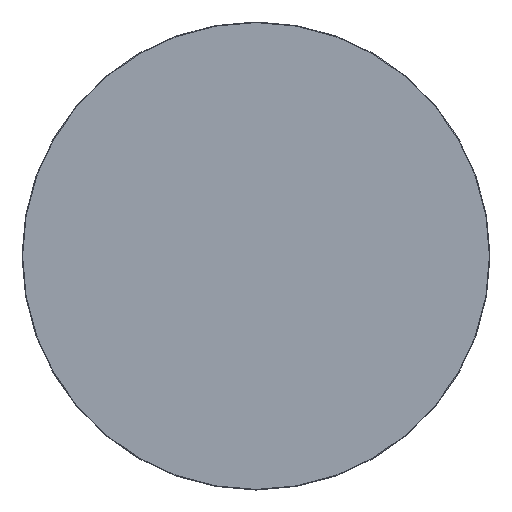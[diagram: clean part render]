
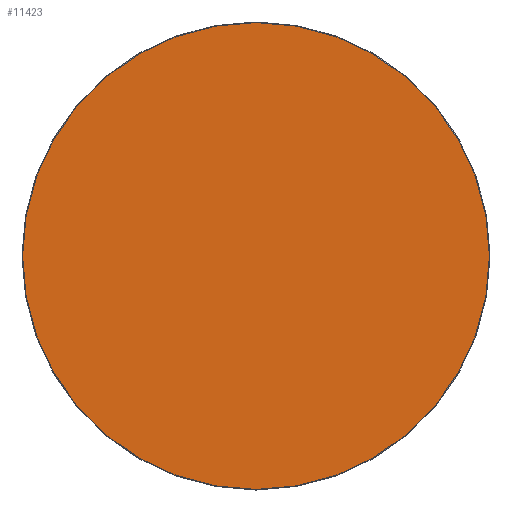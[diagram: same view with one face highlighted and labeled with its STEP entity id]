
A CAD part, top view. The second image highlights one B-rep face of the part: STEP entity #11423.
In plain terms, the highlighted planar face has unit normal (0, 0, 1).
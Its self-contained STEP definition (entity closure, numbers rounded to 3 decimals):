
#11348=CARTESIAN_POINT('',(0.,0.,20.));
#11349=DIRECTION('',(1.,0.,0.));
#11350=DIRECTION('',(0.,0.,1.));
#11351=AXIS2_PLACEMENT_3D('',#11348,#11350,#11349);
#11352=PLANE('',#11351);
#11353=CARTESIAN_POINT('',(-0.5,-598.5,20.));
#11354=VERTEX_POINT('',#11353);
#11355=CARTESIAN_POINT('',(0.5,-598.5,20.));
#11356=VERTEX_POINT('',#11355);
#11357=CARTESIAN_POINT('',(-0.5,-598.5,20.));
#11358=DIRECTION('',(1.,0.,0.));
#11359=VECTOR('',#11358,1.);
#11360=LINE('',#11357,#11359);
#11361=EDGE_CURVE('',#11354,#11356,#11360,.T.);
#11362=ORIENTED_EDGE('E105',*,*,#11361,.T.);
#11363=CARTESIAN_POINT('',(598.5,-0.5,20.));
#11364=VERTEX_POINT('',#11363);
#11365=CARTESIAN_POINT('',(0.5,-0.5,20.));
#11366=DIRECTION('',(0.,-1.,0.));
#11367=DIRECTION('',(0.,-0.,1.));
#11368=AXIS2_PLACEMENT_3D('',#11365,#11367,#11366);
#11369=CIRCLE('',#11368,598.);
#11370=EDGE_CURVE('',#11356,#11364,#11369,.T.);
#11371=ORIENTED_EDGE('E107',*,*,#11370,.T.);
#11372=CARTESIAN_POINT('',(598.5,0.5,20.));
#11373=VERTEX_POINT('',#11372);
#11374=CARTESIAN_POINT('',(598.5,-0.5,20.));
#11375=DIRECTION('',(0.,1.,0.));
#11376=VECTOR('',#11375,1.);
#11377=LINE('',#11374,#11376);
#11378=EDGE_CURVE('',#11364,#11373,#11377,.T.);
#11379=ORIENTED_EDGE('E109',*,*,#11378,.T.);
#11380=CARTESIAN_POINT('',(0.5,598.5,20.));
#11381=VERTEX_POINT('',#11380);
#11382=CARTESIAN_POINT('',(0.5,0.5,20.));
#11383=DIRECTION('',(1.,0.,0.));
#11384=DIRECTION('',(0.,0.,1.));
#11385=AXIS2_PLACEMENT_3D('',#11382,#11384,#11383);
#11386=CIRCLE('',#11385,598.);
#11387=EDGE_CURVE('',#11373,#11381,#11386,.T.);
#11388=ORIENTED_EDGE('E111',*,*,#11387,.T.);
#11389=CARTESIAN_POINT('',(-0.5,598.5,20.));
#11390=VERTEX_POINT('',#11389);
#11391=CARTESIAN_POINT('',(0.5,598.5,20.));
#11392=DIRECTION('',(-1.,0.,0.));
#11393=VECTOR('',#11392,1.);
#11394=LINE('',#11391,#11393);
#11395=EDGE_CURVE('',#11381,#11390,#11394,.T.);
#11396=ORIENTED_EDGE('E113',*,*,#11395,.T.);
#11397=CARTESIAN_POINT('',(-598.5,0.5,20.));
#11398=VERTEX_POINT('',#11397);
#11399=CARTESIAN_POINT('',(-0.5,0.5,20.));
#11400=DIRECTION('',(0.,1.,0.));
#11401=DIRECTION('',(0.,0.,1.));
#11402=AXIS2_PLACEMENT_3D('',#11399,#11401,#11400);
#11403=CIRCLE('',#11402,598.);
#11404=EDGE_CURVE('',#11390,#11398,#11403,.T.);
#11405=ORIENTED_EDGE('E115',*,*,#11404,.T.);
#11406=CARTESIAN_POINT('',(-598.5,-0.5,20.));
#11407=VERTEX_POINT('',#11406);
#11408=CARTESIAN_POINT('',(-598.5,0.5,20.));
#11409=DIRECTION('',(0.,-1.,0.));
#11410=VECTOR('',#11409,1.);
#11411=LINE('',#11408,#11410);
#11412=EDGE_CURVE('',#11398,#11407,#11411,.T.);
#11413=ORIENTED_EDGE('E117',*,*,#11412,.T.);
#11414=CARTESIAN_POINT('',(-0.5,-0.5,20.));
#11415=DIRECTION('',(-1.,0.,0.));
#11416=DIRECTION('',(0.,0.,1.));
#11417=AXIS2_PLACEMENT_3D('',#11414,#11416,#11415);
#11418=CIRCLE('',#11417,598.);
#11419=EDGE_CURVE('',#11407,#11354,#11418,.T.);
#11420=ORIENTED_EDGE('E119',*,*,#11419,.T.);
#11421=EDGE_LOOP('',(#11362,#11371,#11379,#11388,#11396,#11405,#11413,#11420));
#11422=FACE_OUTER_BOUND('',#11421,.T.);
#11423=ADVANCED_FACE('F2',(#11422),#11352,.T.);
